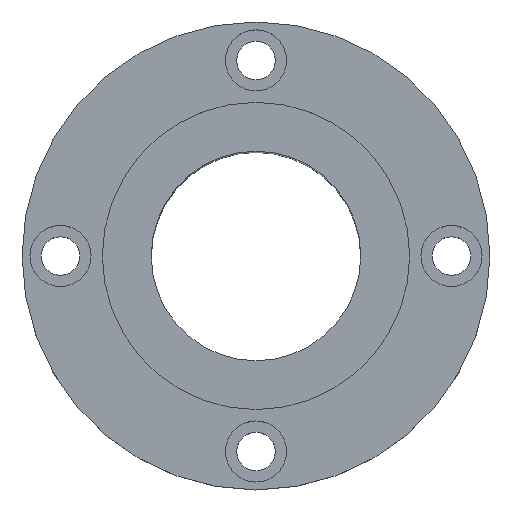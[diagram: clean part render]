
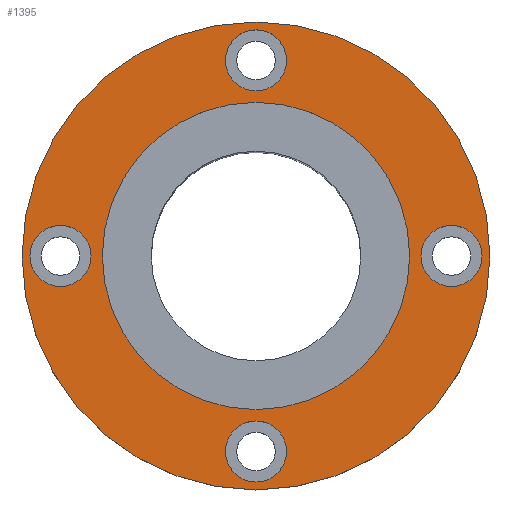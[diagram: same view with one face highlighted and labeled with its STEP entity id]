
A CAD part, top view. The second image highlights one B-rep face of the part: STEP entity #1395.
In plain terms, the highlighted planar face has unit normal (0, 0, 1).
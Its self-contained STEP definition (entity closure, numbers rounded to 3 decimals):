
#133=CARTESIAN_POINT('',(-44.0,0.,105.5));
#134=VERTEX_POINT('',#133);
#143=CARTESIAN_POINT('',(44.0,0.,105.5));
#144=VERTEX_POINT('',#143);
#145=CARTESIAN_POINT('',(0.0,0.0,105.5));
#146=DIRECTION('',(0.0,0.0,-1.0));
#147=DIRECTION('',(-1.0,0.0,0.0));
#148=AXIS2_PLACEMENT_3D('',#145,#146,#147);
#149=CIRCLE('',#148,44.0);
#150=EDGE_CURVE('',#144,#134,#149,.T.);
#217=CARTESIAN_POINT('',(-67.,0.,105.5));
#218=VERTEX_POINT('',#217);
#227=CARTESIAN_POINT('',(67.,0.,105.5));
#228=VERTEX_POINT('',#227);
#229=CARTESIAN_POINT('',(0.0,0.0,105.5));
#230=DIRECTION('',(0.0,0.0,-1.0));
#231=DIRECTION('',(-1.0,0.0,0.0));
#232=AXIS2_PLACEMENT_3D('',#229,#230,#231);
#233=CIRCLE('',#232,67.);
#234=EDGE_CURVE('',#218,#228,#233,.T.);
#345=CARTESIAN_POINT('',(64.75,0.0,105.5));
#346=VERTEX_POINT('',#345);
#362=CARTESIAN_POINT('',(47.25,0.,105.5));
#363=VERTEX_POINT('',#362);
#370=CARTESIAN_POINT('',(56.,0.0,105.5));
#371=DIRECTION('',(0.0,0.0,-1.0));
#372=DIRECTION('',(1.0,0.0,0.0));
#373=AXIS2_PLACEMENT_3D('',#370,#371,#372);
#374=CIRCLE('',#373,8.75);
#375=EDGE_CURVE('',#346,#363,#374,.T.);
#471=CARTESIAN_POINT('',(0.,64.75,105.5));
#472=VERTEX_POINT('',#471);
#488=CARTESIAN_POINT('',(0.,47.25,105.5));
#489=VERTEX_POINT('',#488);
#496=CARTESIAN_POINT('',(0.,56.,105.5));
#497=DIRECTION('',(0.0,0.0,-1.0));
#498=DIRECTION('',(0.0,1.0,0.0));
#499=AXIS2_PLACEMENT_3D('',#496,#497,#498);
#500=CIRCLE('',#499,8.75);
#501=EDGE_CURVE('',#472,#489,#500,.T.);
#597=CARTESIAN_POINT('',(-64.75,0.,105.5));
#598=VERTEX_POINT('',#597);
#614=CARTESIAN_POINT('',(-47.25,0.,105.5));
#615=VERTEX_POINT('',#614);
#622=CARTESIAN_POINT('',(-56.,0.,105.5));
#623=DIRECTION('',(0.0,0.0,-1.0));
#624=DIRECTION('',(-1.0,0.0,0.0));
#625=AXIS2_PLACEMENT_3D('',#622,#623,#624);
#626=CIRCLE('',#625,8.75);
#627=EDGE_CURVE('',#598,#615,#626,.T.);
#723=CARTESIAN_POINT('',(0.,-64.75,105.5));
#724=VERTEX_POINT('',#723);
#740=CARTESIAN_POINT('',(0.,-47.25,105.5));
#741=VERTEX_POINT('',#740);
#748=CARTESIAN_POINT('',(0.,-56.,105.5));
#749=DIRECTION('',(0.0,0.0,-1.0));
#750=DIRECTION('',(0.0,-1.0,0.0));
#751=AXIS2_PLACEMENT_3D('',#748,#749,#750);
#752=CIRCLE('',#751,8.75);
#753=EDGE_CURVE('',#724,#741,#752,.T.);
#811=CARTESIAN_POINT('',(0.,-56.,105.5));
#812=DIRECTION('',(0.0,0.0,-1.0));
#813=DIRECTION('',(0.0,-1.0,0.0));
#814=AXIS2_PLACEMENT_3D('',#811,#812,#813);
#815=CIRCLE('',#814,8.75);
#816=EDGE_CURVE('',#741,#724,#815,.T.);
#915=CARTESIAN_POINT('',(-56.,0.,105.5));
#916=DIRECTION('',(0.0,0.0,-1.0));
#917=DIRECTION('',(-1.0,0.0,0.0));
#918=AXIS2_PLACEMENT_3D('',#915,#916,#917);
#919=CIRCLE('',#918,8.75);
#920=EDGE_CURVE('',#615,#598,#919,.T.);
#1019=CARTESIAN_POINT('',(0.,56.,105.5));
#1020=DIRECTION('',(0.0,0.0,-1.0));
#1021=DIRECTION('',(0.0,1.0,0.0));
#1022=AXIS2_PLACEMENT_3D('',#1019,#1020,#1021);
#1023=CIRCLE('',#1022,8.75);
#1024=EDGE_CURVE('',#489,#472,#1023,.T.);
#1123=CARTESIAN_POINT('',(56.,0.0,105.5));
#1124=DIRECTION('',(0.0,0.0,-1.0));
#1125=DIRECTION('',(1.0,0.0,0.0));
#1126=AXIS2_PLACEMENT_3D('',#1123,#1124,#1125);
#1127=CIRCLE('',#1126,8.75);
#1128=EDGE_CURVE('',#363,#346,#1127,.T.);
#1188=CARTESIAN_POINT('',(0.0,0.0,105.5));
#1189=DIRECTION('',(0.0,0.0,-1.0));
#1190=DIRECTION('',(-1.0,0.0,0.0));
#1191=AXIS2_PLACEMENT_3D('',#1188,#1189,#1190);
#1192=CIRCLE('',#1191,67.);
#1193=EDGE_CURVE('',#228,#218,#1192,.T.);
#1306=CARTESIAN_POINT('',(0.0,0.0,105.5));
#1307=DIRECTION('',(0.0,0.0,-1.0));
#1308=DIRECTION('',(-1.0,0.0,0.0));
#1309=AXIS2_PLACEMENT_3D('',#1306,#1307,#1308);
#1310=CIRCLE('',#1309,44.0);
#1311=EDGE_CURVE('',#134,#144,#1310,.T.);
#1366=CARTESIAN_POINT('',(0.0,0.0,105.5));
#1367=DIRECTION('',(0.0,0.0,-1.0));
#1368=DIRECTION('',(-1.0,0.0,0.0));
#1369=AXIS2_PLACEMENT_3D('',#1366,#1367,#1368);
#1370=PLANE('',#1369);
#1371=ORIENTED_EDGE('',*,*,#1193,.F.);
#1372=ORIENTED_EDGE('',*,*,#234,.F.);
#1373=EDGE_LOOP('',(#1371,#1372));
#1374=FACE_OUTER_BOUND('',#1373,.T.);
#1375=ORIENTED_EDGE('',*,*,#753,.T.);
#1376=ORIENTED_EDGE('',*,*,#816,.T.);
#1377=EDGE_LOOP('',(#1375,#1376));
#1378=FACE_BOUND('',#1377,.T.);
#1379=ORIENTED_EDGE('',*,*,#627,.T.);
#1380=ORIENTED_EDGE('',*,*,#920,.T.);
#1381=EDGE_LOOP('',(#1379,#1380));
#1382=FACE_BOUND('',#1381,.T.);
#1383=ORIENTED_EDGE('',*,*,#501,.T.);
#1384=ORIENTED_EDGE('',*,*,#1024,.T.);
#1385=EDGE_LOOP('',(#1383,#1384));
#1386=FACE_BOUND('',#1385,.T.);
#1387=ORIENTED_EDGE('',*,*,#375,.T.);
#1388=ORIENTED_EDGE('',*,*,#1128,.T.);
#1389=EDGE_LOOP('',(#1387,#1388));
#1390=FACE_BOUND('',#1389,.T.);
#1391=ORIENTED_EDGE('',*,*,#150,.T.);
#1392=ORIENTED_EDGE('',*,*,#1311,.T.);
#1393=EDGE_LOOP('',(#1391,#1392));
#1394=FACE_BOUND('',#1393,.T.);
#1395=ADVANCED_FACE('',(#1374,#1378,#1382,#1386,#1390,#1394),#1370,.F.);
